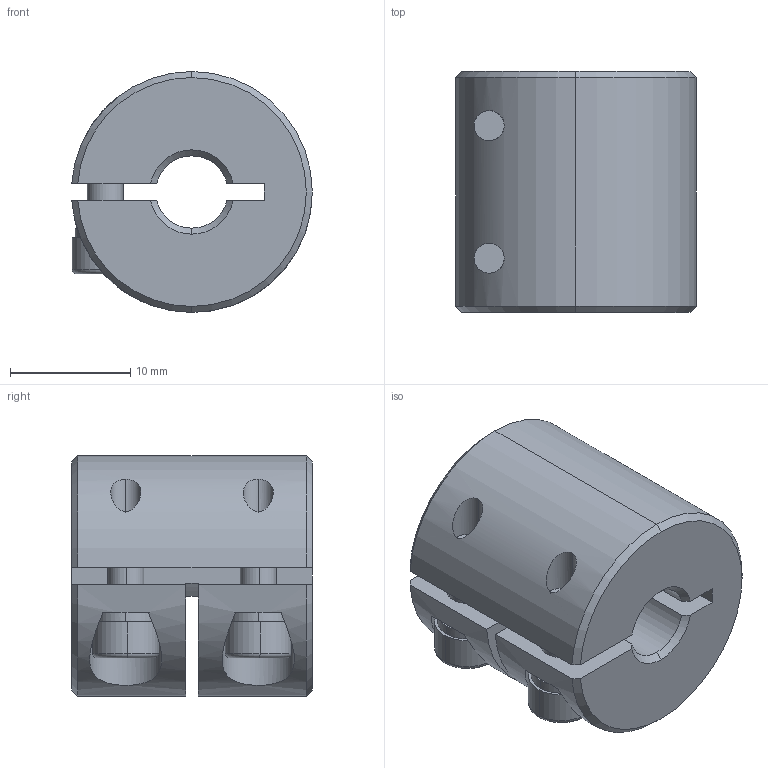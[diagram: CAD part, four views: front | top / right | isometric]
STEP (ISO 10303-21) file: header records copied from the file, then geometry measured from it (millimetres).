
FILE_DESCRIPTION (( 'STEP AP203' ), '1' );
FILE_NAME ('LL-B-D20L20-6-8.STEP', '2021-11-03T05:26:03', ( '' ), ( '' ), 'SwSTEP 2.0', 'SolidWorks 2018', '' );
FILE_SCHEMA (( 'CONFIG_CONTROL_DESIGN' ));
Length unit declared in the file: millimetre
Products named in the file (1): LL-B-D20L20-6-8
Bounding box: 19.98 x 20 x 20 mm (x, y, z)
Volume: 5015.7 mm3; surface area: 3124.7 mm2
Topology: 1 solids, 1 shells, 115 faces, 298 edges, 187 vertices
Faces by surface type: plane 53, cylinder 42, cone 16, torus 4
Entity records: 3764 total; most frequent: CARTESIAN_POINT 831, DIRECTION 625, ORIENTED_EDGE 588, EDGE_CURVE 294, AXIS2_PLACEMENT_3D 241, VERTEX_POINT 187, VECTOR 143, LINE 143
